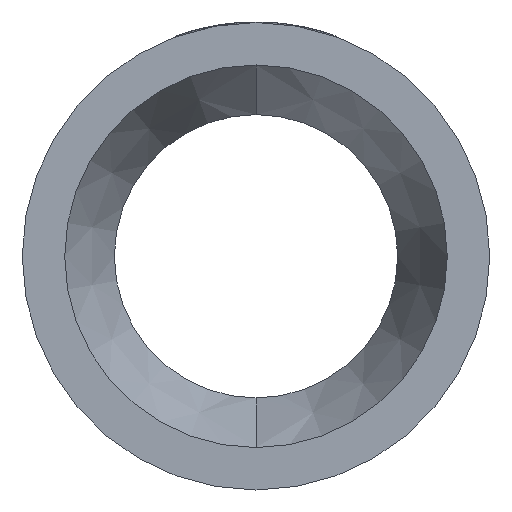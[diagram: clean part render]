
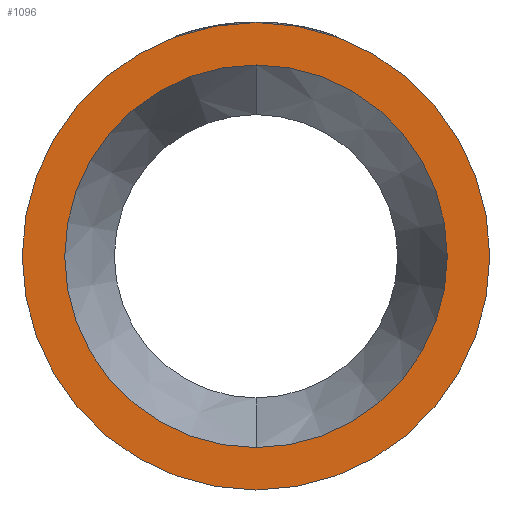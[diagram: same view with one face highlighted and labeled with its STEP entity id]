
A CAD part, left-side view. The second image highlights one B-rep face of the part: STEP entity #1096.
In plain terms, the highlighted planar face has unit normal (-1, 0, 0).
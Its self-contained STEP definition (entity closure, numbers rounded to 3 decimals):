
#14 = EDGE_CURVE ( 'NONE', #2198, #121, #1099, .T. ) ;
#121 = VERTEX_POINT ( 'NONE', #1742 ) ;
#210 = EDGE_LOOP ( 'NONE', ( #1476, #3026 ) ) ;
#229 = CARTESIAN_POINT ( 'NONE',  ( 0., 163.7, 0. ) ) ;
#247 = ORIENTED_EDGE ( 'NONE', *, *, #1836, .T. ) ;
#520 = EDGE_LOOP ( 'NONE', ( #247, #1930 ) ) ;
#1096 = ADVANCED_FACE ( 'NONE', ( #3113, #1211 ), #1740, .F. ) ;
#1099 = CIRCLE ( 'NONE', #1393, 200. ) ;
#1211 = FACE_OUTER_BOUND ( 'NONE', #520, .T. ) ;
#1313 = CARTESIAN_POINT ( 'NONE',  ( 0., 0., -200. ) ) ;
#1393 = AXIS2_PLACEMENT_3D ( 'NONE', #3681, #3672, #3663 ) ;
#1410 = VERTEX_POINT ( 'NONE', #1496 ) ;
#1476 = ORIENTED_EDGE ( 'NONE', *, *, #2819, .F. ) ;
#1496 = CARTESIAN_POINT ( 'NONE',  ( 0., 0., 163.7 ) ) ;
#1689 = DIRECTION ( 'NONE',  ( 0., 0., -1. ) ) ;
#1694 = DIRECTION ( 'NONE',  ( 1., 0., 0. ) ) ;
#1740 = PLANE ( 'NONE',  #1852 ) ;
#1742 = CARTESIAN_POINT ( 'NONE',  ( 0., 0., 200. ) ) ;
#1836 = EDGE_CURVE ( 'NONE', #121, #2198, #2287, .T. ) ;
#1852 = AXIS2_PLACEMENT_3D ( 'NONE', #229, #1694, #1689 ) ;
#1930 = ORIENTED_EDGE ( 'NONE', *, *, #14, .T. ) ;
#2186 = AXIS2_PLACEMENT_3D ( 'NONE', #2565, #2406, #2261 ) ;
#2198 = VERTEX_POINT ( 'NONE', #1313 ) ;
#2261 = DIRECTION ( 'NONE',  ( 0., 0., 1. ) ) ;
#2287 = CIRCLE ( 'NONE', #2699, 200. ) ;
#2336 = AXIS2_PLACEMENT_3D ( 'NONE', #3093, #3006, #2992 ) ;
#2337 = CIRCLE ( 'NONE', #2336, 163.7 ) ;
#2406 = DIRECTION ( 'NONE',  ( -1., 0., 0. ) ) ;
#2477 = EDGE_CURVE ( 'NONE', #3404, #1410, #2337, .T. ) ;
#2521 = CARTESIAN_POINT ( 'NONE',  ( 0., 0., -163.7 ) ) ;
#2565 = CARTESIAN_POINT ( 'NONE',  ( 0., 0., 0. ) ) ;
#2699 = AXIS2_PLACEMENT_3D ( 'NONE', #3004, #2999, #2995 ) ;
#2819 = EDGE_CURVE ( 'NONE', #1410, #3404, #3048, .T. ) ;
#2992 = DIRECTION ( 'NONE',  ( 0., 0., 1. ) ) ;
#2995 = DIRECTION ( 'NONE',  ( 0., 0., 1. ) ) ;
#2999 = DIRECTION ( 'NONE',  ( -1., 0., 0. ) ) ;
#3004 = CARTESIAN_POINT ( 'NONE',  ( 0., 0., 0. ) ) ;
#3006 = DIRECTION ( 'NONE',  ( -1., 0., 0. ) ) ;
#3026 = ORIENTED_EDGE ( 'NONE', *, *, #2477, .F. ) ;
#3048 = CIRCLE ( 'NONE', #2186, 163.7 ) ;
#3093 = CARTESIAN_POINT ( 'NONE',  ( 0., 0., 0. ) ) ;
#3113 = FACE_BOUND ( 'NONE', #210, .T. ) ;
#3404 = VERTEX_POINT ( 'NONE', #2521 ) ;
#3663 = DIRECTION ( 'NONE',  ( 0., 0., 1. ) ) ;
#3672 = DIRECTION ( 'NONE',  ( -1., 0., 0. ) ) ;
#3681 = CARTESIAN_POINT ( 'NONE',  ( 0., 0., 0. ) ) ;
